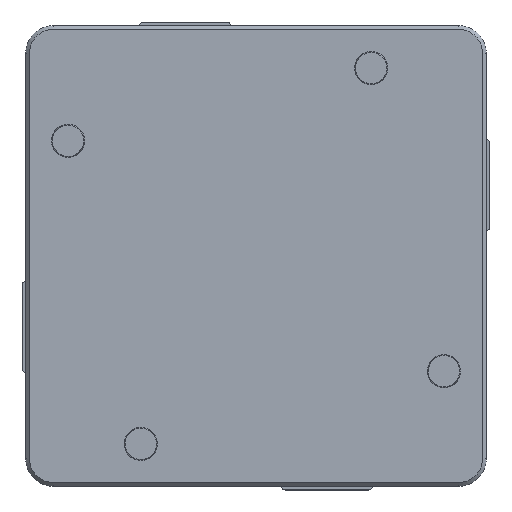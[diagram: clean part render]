
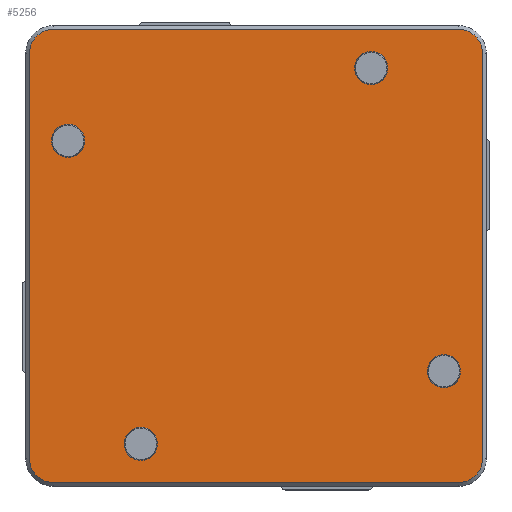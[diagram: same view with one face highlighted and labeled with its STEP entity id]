
A CAD part, top view. The second image highlights one B-rep face of the part: STEP entity #5256.
In plain terms, the highlighted planar face has unit normal (0, 0, 1).
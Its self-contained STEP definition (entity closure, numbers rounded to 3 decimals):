
#523=LINE('',#8447,#1063);
#524=LINE('',#8451,#1064);
#525=LINE('',#8455,#1065);
#526=LINE('',#8459,#1066);
#1063=VECTOR('',#6980,220.);
#1064=VECTOR('',#6983,220.);
#1065=VECTOR('',#6986,220.);
#1066=VECTOR('',#6989,220.);
#1200=FACE_BOUND('',#1776,.T.);
#1201=FACE_BOUND('',#1777,.T.);
#1202=FACE_BOUND('',#1778,.T.);
#1203=FACE_BOUND('',#1779,.T.);
#1463=FACE_OUTER_BOUND('',#1775,.T.);
#1775=EDGE_LOOP('',(#4374,#4375,#4376,#4377,#4378,#4379,#4380,#4381));
#1776=EDGE_LOOP('',(#4382));
#1777=EDGE_LOOP('',(#4383));
#1778=EDGE_LOOP('',(#4384));
#1779=EDGE_LOOP('',(#4385));
#1962=CIRCLE('',#5669,13.);
#1963=CIRCLE('',#5670,13.);
#1964=CIRCLE('',#5671,13.);
#1965=CIRCLE('',#5672,13.);
#1966=CIRCLE('',#5673,9.);
#1967=CIRCLE('',#5674,9.);
#1968=CIRCLE('',#5675,9.);
#1969=CIRCLE('',#5676,9.);
#2420=VERTEX_POINT('',#8445);
#2421=VERTEX_POINT('',#8446);
#2422=VERTEX_POINT('',#8448);
#2423=VERTEX_POINT('',#8450);
#2424=VERTEX_POINT('',#8452);
#2425=VERTEX_POINT('',#8454);
#2426=VERTEX_POINT('',#8456);
#2427=VERTEX_POINT('',#8458);
#2428=VERTEX_POINT('',#8461);
#2429=VERTEX_POINT('',#8463);
#2430=VERTEX_POINT('',#8465);
#2431=VERTEX_POINT('',#8467);
#3095=EDGE_CURVE('',#2420,#2421,#523,.T.);
#3096=EDGE_CURVE('',#2422,#2420,#1962,.T.);
#3097=EDGE_CURVE('',#2423,#2422,#524,.T.);
#3098=EDGE_CURVE('',#2424,#2423,#1963,.T.);
#3099=EDGE_CURVE('',#2425,#2424,#525,.T.);
#3100=EDGE_CURVE('',#2426,#2425,#1964,.T.);
#3101=EDGE_CURVE('',#2427,#2426,#526,.T.);
#3102=EDGE_CURVE('',#2421,#2427,#1965,.T.);
#3103=EDGE_CURVE('',#2428,#2428,#1966,.T.);
#3104=EDGE_CURVE('',#2429,#2429,#1967,.T.);
#3105=EDGE_CURVE('',#2430,#2430,#1968,.T.);
#3106=EDGE_CURVE('',#2431,#2431,#1969,.T.);
#4374=ORIENTED_EDGE('',*,*,#3095,.F.);
#4375=ORIENTED_EDGE('',*,*,#3096,.F.);
#4376=ORIENTED_EDGE('',*,*,#3097,.F.);
#4377=ORIENTED_EDGE('',*,*,#3098,.F.);
#4378=ORIENTED_EDGE('',*,*,#3099,.F.);
#4379=ORIENTED_EDGE('',*,*,#3100,.F.);
#4380=ORIENTED_EDGE('',*,*,#3101,.F.);
#4381=ORIENTED_EDGE('',*,*,#3102,.F.);
#4382=ORIENTED_EDGE('',*,*,#3103,.T.);
#4383=ORIENTED_EDGE('',*,*,#3104,.T.);
#4384=ORIENTED_EDGE('',*,*,#3105,.T.);
#4385=ORIENTED_EDGE('',*,*,#3106,.T.);
#4723=PLANE('',#5668);
#5256=ADVANCED_FACE('',(#1463,#1200,#1201,#1202,#1203),#4723,.T.);
#5668=AXIS2_PLACEMENT_3D('',#8444,#6978,#6979);
#5669=AXIS2_PLACEMENT_3D('',#8449,#6981,#6982);
#5670=AXIS2_PLACEMENT_3D('',#8453,#6984,#6985);
#5671=AXIS2_PLACEMENT_3D('',#8457,#6987,#6988);
#5672=AXIS2_PLACEMENT_3D('',#8460,#6990,#6991);
#5673=AXIS2_PLACEMENT_3D('',#8462,#6992,#6993);
#5674=AXIS2_PLACEMENT_3D('',#8464,#6994,#6995);
#5675=AXIS2_PLACEMENT_3D('',#8466,#6996,#6997);
#5676=AXIS2_PLACEMENT_3D('',#8468,#6998,#6999);
#6978=DIRECTION('center_axis',(0.,0.,1.));
#6979=DIRECTION('ref_axis',(1.,0.,0.));
#6980=DIRECTION('',(0.,1.,0.));
#6981=DIRECTION('center_axis',(0.,0.,-1.));
#6982=DIRECTION('ref_axis',(-0.707,-0.707,0.));
#6983=DIRECTION('',(-1.,0.,0.));
#6984=DIRECTION('center_axis',(0.,0.,-1.));
#6985=DIRECTION('ref_axis',(0.707,-0.707,0.));
#6986=DIRECTION('',(0.,-1.,0.));
#6987=DIRECTION('center_axis',(0.,0.,-1.));
#6988=DIRECTION('ref_axis',(0.707,0.707,0.));
#6989=DIRECTION('',(1.,0.,0.));
#6990=DIRECTION('center_axis',(0.,0.,-1.));
#6991=DIRECTION('ref_axis',(-0.707,0.707,0.));
#6992=DIRECTION('center_axis',(0.,0.,-1.));
#6993=DIRECTION('ref_axis',(-1.,0.,0.));
#6994=DIRECTION('center_axis',(0.,0.,-1.));
#6995=DIRECTION('ref_axis',(-1.,0.,0.));
#6996=DIRECTION('center_axis',(0.,0.,-1.));
#6997=DIRECTION('ref_axis',(-1.,0.,0.));
#6998=DIRECTION('center_axis',(0.,0.,-1.));
#6999=DIRECTION('ref_axis',(-1.,0.,0.));
#8444=CARTESIAN_POINT('Origin',(0.,0.,
8.));
#8445=CARTESIAN_POINT('',(-123.,-110.,8.));
#8446=CARTESIAN_POINT('',(-123.,110.,8.));
#8447=CARTESIAN_POINT('',(-123.,62.5,8.));
#8448=CARTESIAN_POINT('',(-110.,-123.,8.));
#8449=CARTESIAN_POINT('Origin',(-110.,-110.,8.));
#8450=CARTESIAN_POINT('',(110.,-123.,8.));
#8451=CARTESIAN_POINT('',(-62.5,-123.,8.));
#8452=CARTESIAN_POINT('',(123.,-110.,8.));
#8453=CARTESIAN_POINT('Origin',(110.,-110.,8.));
#8454=CARTESIAN_POINT('',(123.,110.,8.));
#8455=CARTESIAN_POINT('',(123.,-62.5,8.));
#8456=CARTESIAN_POINT('',(110.,123.,8.));
#8457=CARTESIAN_POINT('Origin',(110.,110.,8.));
#8458=CARTESIAN_POINT('',(-110.,123.,8.));
#8459=CARTESIAN_POINT('',(62.5,123.,8.));
#8460=CARTESIAN_POINT('Origin',(-110.,110.,8.));
#8461=CARTESIAN_POINT('',(111.,-62.5,8.));
#8462=CARTESIAN_POINT('Origin',(102.,-62.5,8.));
#8463=CARTESIAN_POINT('',(-93.,62.5,8.));
#8464=CARTESIAN_POINT('Origin',(-102.,62.5,8.));
#8465=CARTESIAN_POINT('',(71.5,102.,8.));
#8466=CARTESIAN_POINT('Origin',(62.5,102.,8.));
#8467=CARTESIAN_POINT('',(-53.5,-102.,8.));
#8468=CARTESIAN_POINT('Origin',(-62.5,-102.,8.));
